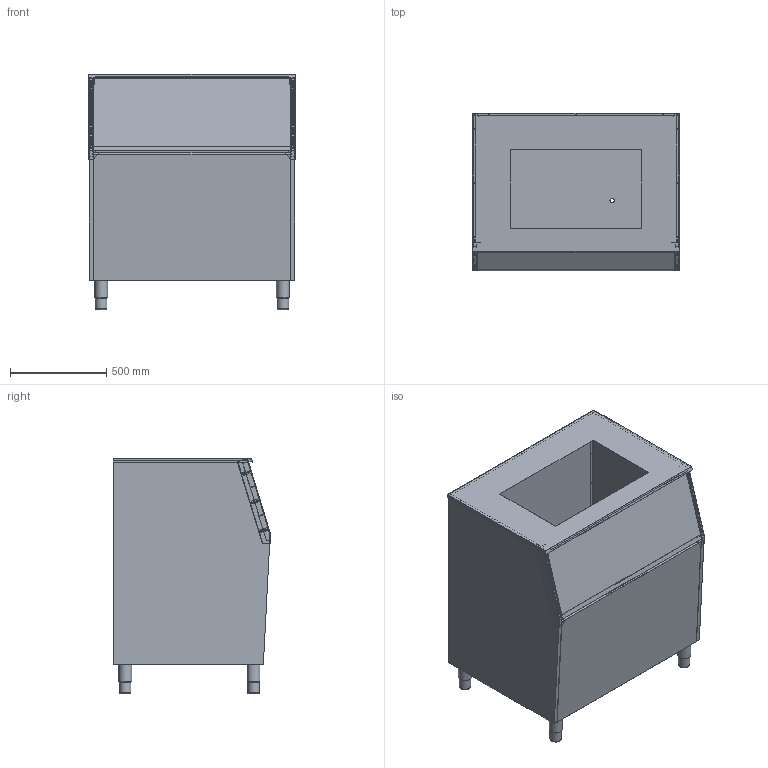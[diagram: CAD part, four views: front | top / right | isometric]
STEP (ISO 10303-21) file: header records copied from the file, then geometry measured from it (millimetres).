
FILE_DESCRIPTION(/* description */ ('Unknown'),/* implementation_level */ '2;1');
FILE_NAME(/* name */ 'S750',/* time_stamp */ '2018-04-24T09:13:16+02:00',/* author */ ('Unknown'),/* organization */ ('Unknown'),/* preprocessor_version */ 'ST-DEVELOPER v16.7',/* originating_system */ 'DEX',/* authorisation */ $);
FILE_SCHEMA (('CONFIG_CONTROL_DESIGN'));
Products named in the file (14): S750; 42-9+7678_oa_0; 42-7+6972; 42-6+6644; 42-12+7698; 42-6+6643; 42-21; 42-80+7642_oa_1; 42-79+7640_oa_2; 42-2+6730; 42-4+6962; 42-2+6731; 42-5+6964; 42-3+6960
Assembly tree (16 placements, depth 4):
  S750
    42-9+7678_oa_0
      42-7+6972
    42-6+6644
    42-12+7698
    42-6+6643
    42-21  x4
    42-80+7642_oa_1
      42-79+7640_oa_2
        42-2+6730
        42-4+6962
        42-2+6731
        42-5+6964
        42-3+6960
Bounding box: 1076.2 x 819.62 x 1224.3 mm (x, y, z)
Volume: 7027611 mm3; surface area: 12411861.1 mm2
Topology: 17 solids, 17 shells, 1891 faces, 4989 edges, 3040 vertices
Faces by surface type: plane 877, cylinder 715, bspline 205, sphere 78, cone 12, torus 4
Full cylindrical faces by diameter (mm): 2.7 x27, 4 x8, 4.25 x44, 5 x8, 10 x4, 21 x4, 22 x3, 60 x5, 67 x4
Entity records: 59856 total; most frequent: CARTESIAN_POINT 14632, ORIENTED_EDGE 9378, DIRECTION 9181, EDGE_CURVE 4689, AXIS2_PLACEMENT_3D 3135, VERTEX_POINT 2947, LINE 2911, VECTOR 2911
